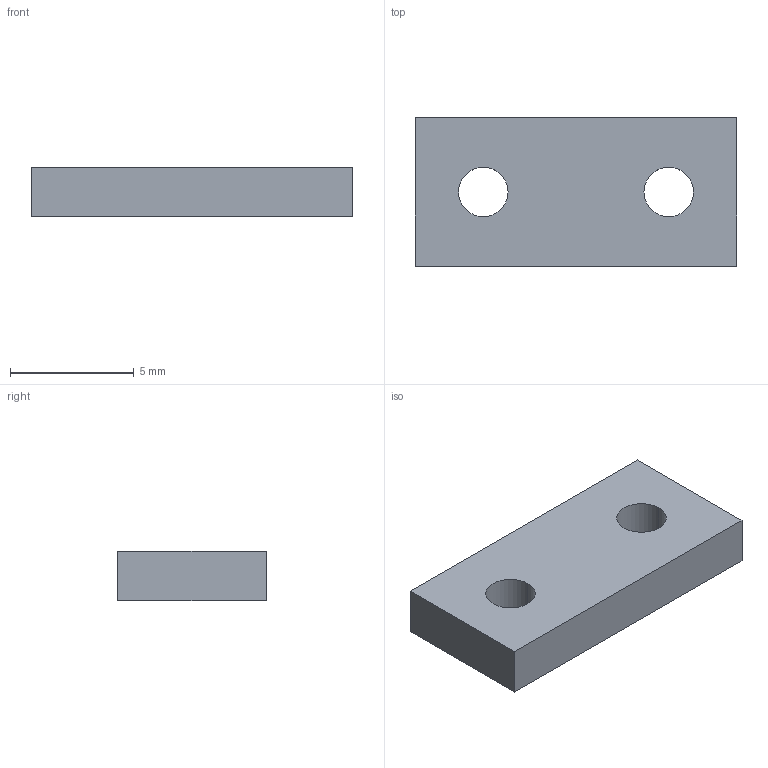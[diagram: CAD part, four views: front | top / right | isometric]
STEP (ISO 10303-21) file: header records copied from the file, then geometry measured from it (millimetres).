
FILE_DESCRIPTION(('STEP AP214'),'1');
FILE_NAME('tmp0.step','2025-04-27T19:45:08',(' '),(' '),'Spatial InterOp 3D',' ',' ');
FILE_SCHEMA(('AUTOMOTIVE_DESIGN { 1 0 10303 214 1 1 1 1 }'));
Length unit declared in the file: millimetre
Products named in the file (1): 1
Bounding box: 13 x 6 x 2 mm (x, y, z)
Volume: 143.4 mm3; surface area: 244.6 mm2
Topology: 1 solids, 1 shells, 10 faces, 24 edges, 16 vertices
Faces by surface type: plane 6, cylinder 4
Entity records: 329 total; most frequent: DIRECTION 54, CARTESIAN_POINT 51, ORIENTED_EDGE 48, EDGE_CURVE 24, AXIS2_PLACEMENT_3D 19, VERTEX_POINT 16, LINE 16, VECTOR 16
